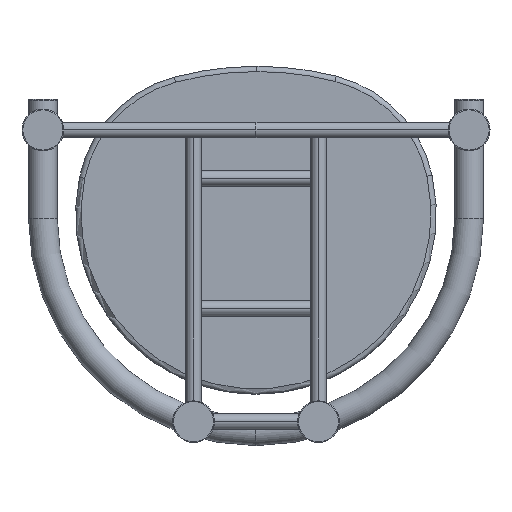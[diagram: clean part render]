
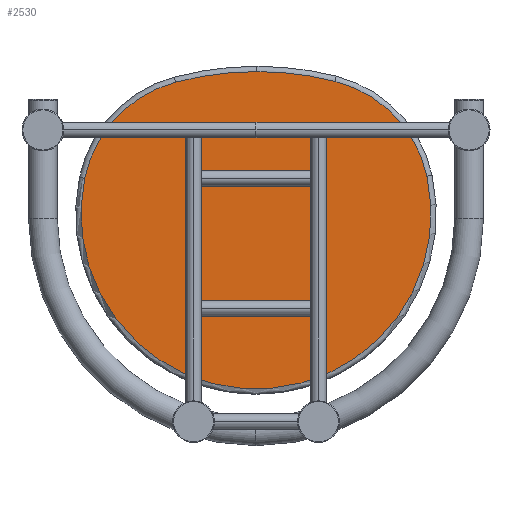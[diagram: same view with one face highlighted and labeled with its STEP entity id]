
A CAD part, front view. The second image highlights one B-rep face of the part: STEP entity #2530.
In plain terms, the highlighted planar face has unit normal (0, -1, 0).
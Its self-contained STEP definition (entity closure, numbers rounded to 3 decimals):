
#92 = DIRECTION ( 'NONE',  ( 0., 0., 1. ) ) ;
#229 = PLANE ( 'NONE',  #2068 ) ;
#279 = AXIS2_PLACEMENT_3D ( 'NONE', #5088, #4521, #92 ) ;
#328 = DIRECTION ( 'NONE',  ( 0., -1., 0. ) ) ;
#424 = AXIS2_PLACEMENT_3D ( 'NONE', #3687, #2686, #4652 ) ;
#564 = VERTEX_POINT ( 'NONE', #6112 ) ;
#612 = AXIS2_PLACEMENT_3D ( 'NONE', #5917, #328, #2828 ) ;
#617 = EDGE_CURVE ( 'NONE', #5945, #1699, #805, .T. ) ;
#764 = CARTESIAN_POINT ( 'NONE',  ( -98.092, 0., 160.631 ) ) ;
#776 = VERTEX_POINT ( 'NONE', #764 ) ;
#805 = CIRCLE ( 'NONE', #279, 387.431 ) ;
#844 = CARTESIAN_POINT ( 'NONE',  ( 96.304, 0., 161.709 ) ) ;
#944 = EDGE_LOOP ( 'NONE', ( #2250, #2998, #2799, #6355, #5610 ) ) ;
#1190 = DIRECTION ( 'NONE',  ( 0., 0., 1. ) ) ;
#1205 = DIRECTION ( 'NONE',  ( 0., 0., 1. ) ) ;
#1273 = DIRECTION ( 'NONE',  ( 0., 0., 1. ) ) ;
#1644 = CARTESIAN_POINT ( 'NONE',  ( -209.083, 0., 43.448 ) ) ;
#1699 = VERTEX_POINT ( 'NONE', #3542 ) ;
#1731 = DIRECTION ( 'NONE',  ( 0., 1., 0. ) ) ;
#1884 = CIRCLE ( 'NONE', #424, 387.431 ) ;
#2068 = AXIS2_PLACEMENT_3D ( 'NONE', #3244, #1731, #1273 ) ;
#2238 = DIRECTION ( 'NONE',  ( 0., -1., 0. ) ) ;
#2250 = ORIENTED_EDGE ( 'NONE', *, *, #4422, .T. ) ;
#2530 = ADVANCED_FACE ( 'NONE', ( #3692 ), #229, .F. ) ;
#2686 = DIRECTION ( 'NONE',  ( 0., -1., 0. ) ) ;
#2799 = ORIENTED_EDGE ( 'NONE', *, *, #617, .T. ) ;
#2828 = DIRECTION ( 'NONE',  ( 0., 0., 1. ) ) ;
#2998 = ORIENTED_EDGE ( 'NONE', *, *, #4270, .T. ) ;
#3244 = CARTESIAN_POINT ( 'NONE',  ( 0., 0., 0. ) ) ;
#3542 = CARTESIAN_POINT ( 'NONE',  ( 1.186, 0., 173.566 ) ) ;
#3687 = CARTESIAN_POINT ( 'NONE',  ( 1.186, 0., -213.864 ) ) ;
#3692 = FACE_OUTER_BOUND ( 'NONE', #944, .T. ) ;
#3715 = AXIS2_PLACEMENT_3D ( 'NONE', #6144, #2238, #1205 ) ;
#4241 = CIRCLE ( 'NONE', #612, 153.55 ) ;
#4270 = EDGE_CURVE ( 'NONE', #564, #5945, #4241, .T. ) ;
#4422 = EDGE_CURVE ( 'NONE', #5117, #564, #6024, .T. ) ;
#4444 = AXIS2_PLACEMENT_3D ( 'NONE', #6130, #5028, #1190 ) ;
#4489 = EDGE_CURVE ( 'NONE', #1699, #776, #1884, .T. ) ;
#4521 = DIRECTION ( 'NONE',  ( 0., -1., 0. ) ) ;
#4652 = DIRECTION ( 'NONE',  ( 0., 0., 1. ) ) ;
#5028 = DIRECTION ( 'NONE',  ( 0., -1., 0. ) ) ;
#5088 = CARTESIAN_POINT ( 'NONE',  ( 1.186, 0., -213.864 ) ) ;
#5117 = VERTEX_POINT ( 'NONE', #1644 ) ;
#5289 = CIRCLE ( 'NONE', #4444, 153.55 ) ;
#5610 = ORIENTED_EDGE ( 'NONE', *, *, #6227, .T. ) ;
#5917 = CARTESIAN_POINT ( 'NONE',  ( 58.606, 0., 12.858 ) ) ;
#5945 = VERTEX_POINT ( 'NONE', #844 ) ;
#6024 = CIRCLE ( 'NONE', #3715, 213.55 ) ;
#6112 = CARTESIAN_POINT ( 'NONE',  ( 208.589, 0., 45.764 ) ) ;
#6130 = CARTESIAN_POINT ( 'NONE',  ( -58.745, 0., 12.207 ) ) ;
#6144 = CARTESIAN_POINT ( 'NONE',  ( 0., 0., 0. ) ) ;
#6227 = EDGE_CURVE ( 'NONE', #776, #5117, #5289, .T. ) ;
#6355 = ORIENTED_EDGE ( 'NONE', *, *, #4489, .T. ) ;
